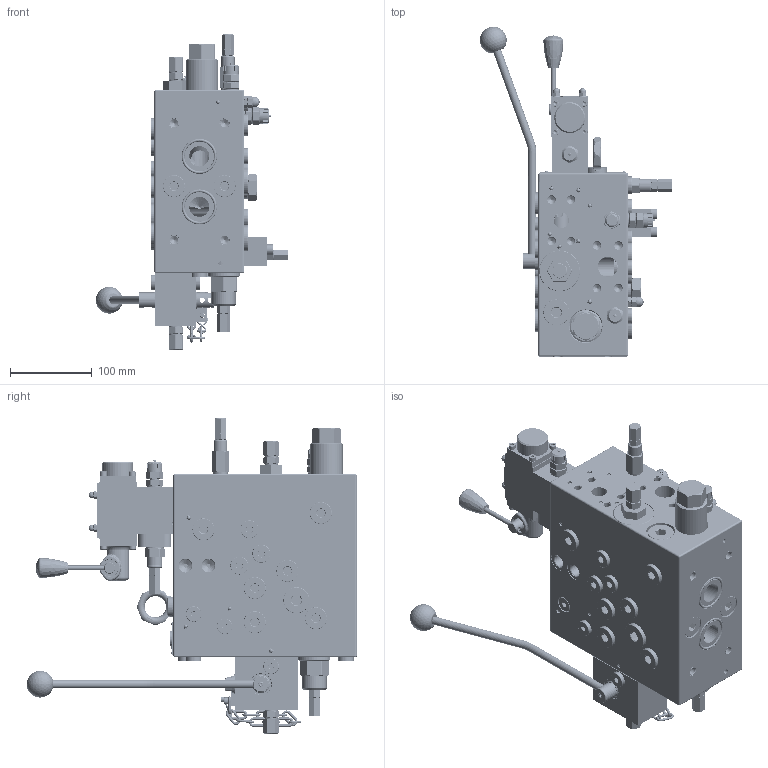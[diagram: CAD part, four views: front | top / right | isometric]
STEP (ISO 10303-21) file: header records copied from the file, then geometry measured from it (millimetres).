
FILE_DESCRIPTION((''),'2;1');
FILE_NAME('9MBH-160-1-2C-MA-L-TR_ASM','2019-11-07T13:19:01',('ces'),(''),'CREO PARAMETRIC BY PTC INC, 2019080','CREO PARAMETRIC BY PTC INC, 2019080','');
FILE_SCHEMA(('AP203_CONFIGURATION_CONTROLLED_3D_DESIGN_OF_MECHANICAL_PARTS_AND_ASSEMBLIES_MIM_LF { 1 0 10303 403 2 1 2 }'));
Products named in the file (113): 1714666_1_1; 101205_1_1; 421994_1_1; 303771_1_1; KNOB_LB_33X10_1_1; 421766_1_1; WVE-R1_4-0_1_1_1; WVE-R1_4-0_1_2_1; WVE-R1_4-0_1_ASM_1_ASM; 404932A_1_1; NUT_M8_DIN_439B_1_1; CAP_NUT_M8_DIN_1587_1_1; PLUG_1_4_R_VSTI-ED_1_1; 431428_1_1; RIVET_1_1; O_RING_06_07_X_1_78_SHORE_70_1_; 303560_1_1; 421773_1_1; 421779_1_1; 421772_1_1; 416402_1_1; O_RING_34_60_X_2_62_SHORE_70_1_; GM606_1_1; GSH-M606_1_1; CXFA-XCN_1_1; PPS_3_8_1_1; PLUG_3_8_BSPP_BRASS_1_1; SHAFT_SEAL_20-26_1_1; 424845_1_1; M10_X_30_DIN_916_1_1; PPM_10_1_1; 417915_1_1; 417913_1_1; PLUG_3_4_R_VSTI_ED_1_1; RPCC-LQN_1_1_1; RPCC-LQN_1_2_1; RPCC-LQN_1_3_1; RPCC-LQN_1_ASM_1_ASM; 422747_1_1; 422748_1_1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
Assembly tree (230 placements, depth 6):
  9MBH-160-1-2C-MA-L-TR_ASM
    0000216381_ASM_1_ASM
      9MBH-160-1-2C-MA-L-TR_ASM_1_ASM_ASM
        1714666_1_1
        101205_1_1
        421994_1_1
        303771_1_1
        KNOB_LB_33X10_1_1
        421766_1_1
        WVE-R1_4-0_1_ASM_1_ASM
          WVE-R1_4-0_1_1_1
          WVE-R1_4-0_1_2_1
        404932A_1_1
        NUT_M8_DIN_439B_1_1
        CAP_NUT_M8_DIN_1587_1_1
        PLUG_1_4_R_VSTI-ED_1_1  x12
        431428_1_1
        RIVET_1_1  x4
        O_RING_06_07_X_1_78_SHORE_70_1_
        303560_1_1
        421773_1_1
        421779_1_1
        421772_1_1
        416402_1_1
        O_RING_34_60_X_2_62_SHORE_70_1_
        GM606_1_1
        GSH-M606_1_1
        CXFA-XCN_1_1
        PPS_3_8_1_1
        PLUG_3_8_BSPP_BRASS_1_1
        SHAFT_SEAL_20-26_1_1  x2
        424845_1_1
        M10_X_30_DIN_916_1_1
        PPM_10_1_1  x4
        417915_1_1  x2
        417913_1_1  x2
        PLUG_3_4_R_VSTI_ED_1_1  x5
        RPCC-LQN_1_ASM_1_ASM
          RPCC-LQN_1_1_1
          RPCC-LQN_1_2_1
          RPCC-LQN_1_3_1
        HT182_ASM_1_ASM_1_ASM  x2
          422747_1_1
          422748_1_1
          O_RING_07_10_X_1_60_SHORE_70_1_
        PLUG_1_2_R_VSTI-ED_1_1  x10
        O_RING_36_10_X_3_53_SHORE_70_1_  x2
        SCREW_M8_X_70_DIN_912_1_1  x4
        RING_SCREW_RUD_RS_M10_1_1
        PLUG_1_R_VSTI_ED_1_1
        PLUG_3_8_R_VSTI-ED_1_1  x9
        STEPSEAL_K25_20_15-1_2-0_1_1  x2
        O_RING_15_60_X_1_78_SHORE_70_1_  x2
        M6_X_8_DIN_916_A4_1_1
        O_RING_40_95_X_2_62_SHORE_70_1_
        427394_1_1
        M10_X_50_DIN_916_1_1
        PLUG_1_8_R_VSTI-ED_1_1  x4
        417453_1_1  x2
        PRBR-LSN_1_ASM_1_ASM
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Bounding box: 236 x 405.59 x 386.44 mm (x, y, z)
Volume: 5431281.7 mm3; surface area: 1035892.4 mm2
Topology: 256 solids, 484 shells, 10727 faces, 30275 edges, 20770 vertices
Faces by surface type: plane 4497, cylinder 3252, cone 1940, torus 779, sphere 137, extrusion 74, bspline 48
Entity records: 499543 total; most frequent: CARTESIAN_POINT 152492, DIRECTION 46717, ORIENTED_EDGE 38616, POLYLINE 37481, EDGE_CURVE 19668, PRESENTATION_STYLE_ASSIGNMENT 18950, STYLED_ITEM 18182, CURVE_STYLE 16858
